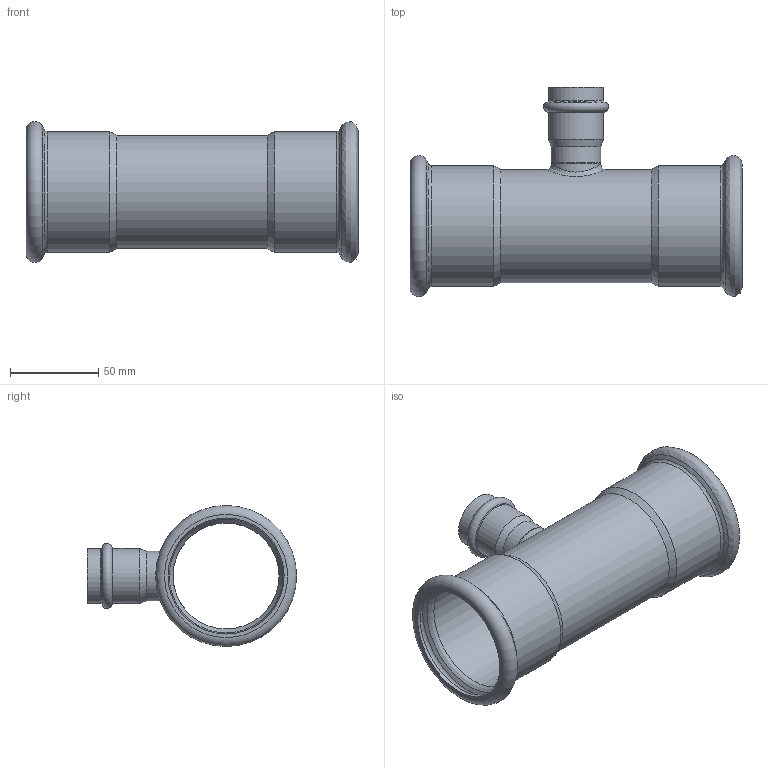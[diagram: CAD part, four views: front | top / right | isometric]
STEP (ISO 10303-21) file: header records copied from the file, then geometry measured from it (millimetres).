
FILE_DESCRIPTION((''),'2;1');
FILE_NAME('G:\Nirosan-Schmiedefeld\Technics\CAD\Bauteile VA\064\69130642864(1).stp','2009-05-08T09:15:08',('herberg'),(''),'Autodesk Inventor 2009','Autodesk Inventor 2009','');
FILE_SCHEMA(('AUTOMOTIVE_DESIGN { 1 0 10303 214 1 1 1 1 }'));
Length unit declared in the file: millimetre
Products named in the file (3): 69130642864(1); LM_69130642864(1); 6924328HM(1)
Assembly tree (2 placements, depth 2):
  69130642864(1)
    LM_69130642864(1)
    6924328HM(1)
Bounding box: 188 x 118.4 x 79.8 mm (x, y, z)
Volume: 88903 mm3; surface area: 92344.5 mm2
Topology: 2 solids, 2 shells, 51 faces, 103 edges, 58 vertices
Faces by surface type: bspline 20, cylinder 13, cone 8, plane 5, torus 5
Full cylindrical faces by diameter (mm): 24 x1, 25 x1, 28 x2, 28.2 x2, 31.2 x2, 60 x1, 64 x1, 64.4 x1, 65.7 x1, 68.4 x1
Entity records: 3172 total; most frequent: CARTESIAN_POINT 2285, DIRECTION 170, ORIENTED_EDGE 108, EDGE_LOOP 102, AXIS2_PLACEMENT_3D 85, EDGE_CURVE 54, VERTEX_POINT 52, FACE_OUTER_BOUND 51
